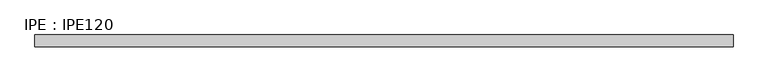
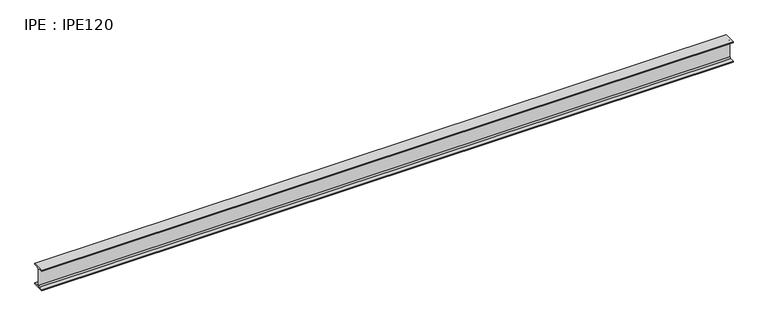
"""IFC4 building model written with IfcOpenShell, lengths in millimetres: beam geometry, IPE : IPE120."""

from ifc_helpers import new_model, si_unit, point, frame, frame_2d, origin, place, context, project, spatial, polyline, circle_curve, trimmed, segment, composite_curve, outline, extrude, source, transform, mapped, element, save


def ipe_ipe120_a764803e(model_context):
    return source(origin(), model_context, "Body", "SweptSolid", [
        extrude(outline(composite_curve([segment(polyline([(32.0, -53.7), (32.0, -60.0), (-32.0, -60.0), (-32.0, -53.7), (-9.2, -53.7)]), True, "CONTINUOUS"), segment(trimmed(circle_curve(frame_2d((-9.2, -46.7)), 7.0), [point((-9.2, -53.7))], [point((-2.2, -46.7))], True, "CARTESIAN"), True, "CONTINUOUS"), segment(polyline([(-2.2, -46.7), (-2.2, 46.7)]), True, "CONTINUOUS"), segment(trimmed(circle_curve(frame_2d((-9.2, 46.7)), 7.0), [point((-2.2, 46.7))], [point((-9.2, 53.7))], True, "CARTESIAN"), True, "CONTINUOUS"), segment(polyline([(-9.2, 53.7), (-32.0, 53.7), (-32.0, 60.0), (32.0, 60.0), (32.0, 53.7), (9.2, 53.7)]), True, "CONTINUOUS"), segment(trimmed(circle_curve(frame_2d((9.2, 46.7)), 7.0), [point((9.2, 53.7))], [point((2.2, 46.7))], True, "CARTESIAN"), True, "CONTINUOUS"), segment(polyline([(2.2, 46.7), (2.2, -46.7)]), True, "CONTINUOUS"), segment(trimmed(circle_curve(frame_2d((9.2, -46.7)), 7.0), [point((2.2, -46.7))], [point((9.2, -53.7))], True, "CARTESIAN"), True, "CONTINUOUS"), segment(polyline([(9.2, -53.7), (32.0, -53.7)]), True, "CONTINUOUS")], self_intersect=False)), frame((-1907.3, 0.0, 0.0), z_axis=(1.0, 0.0, 0.0), x_axis=(0.0, 1.0, 0.0)), (0.0, 0.0, 1.0), 3814.6),
    ])


if __name__ == "__main__":
    model = new_model("IFC4")
    model_context = context("Model", 3, world=origin())
    ifc_project = project(units=[si_unit("LENGTHUNIT", "METRE", prefix="MILLI")], contexts=[model_context])
    site = spatial("IfcSite", under=ifc_project)
    building = spatial("IfcBuilding", under=site)
    placement = place(None, origin())
    ipe_ipe120_shape = ipe_ipe120_a764803e(model_context)
    element("IfcBeam", 1, ObjectType="IPE : IPE120", at=placement, inside=building, context=model_context, shape_type="MappedRepresentation", body=[
        mapped(ipe_ipe120_shape, transform((0.0, 0.0, 0.0), x_axis=(1.0, 0.0, 0.0), y_axis=(0.0, 1.0, 0.0), z_axis=(0.0, 0.0, 1.0))),
    ])
    save(model, "model.ifc")
